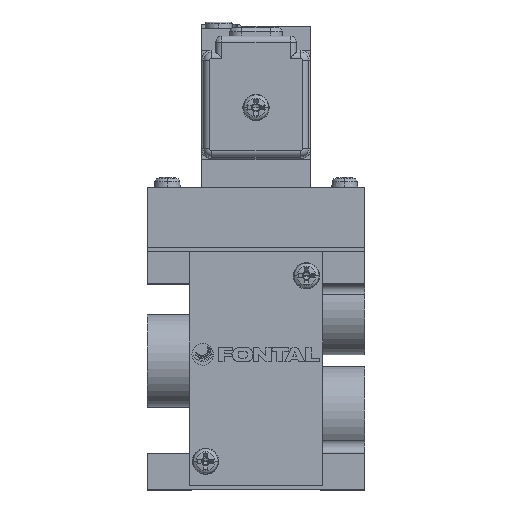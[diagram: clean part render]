
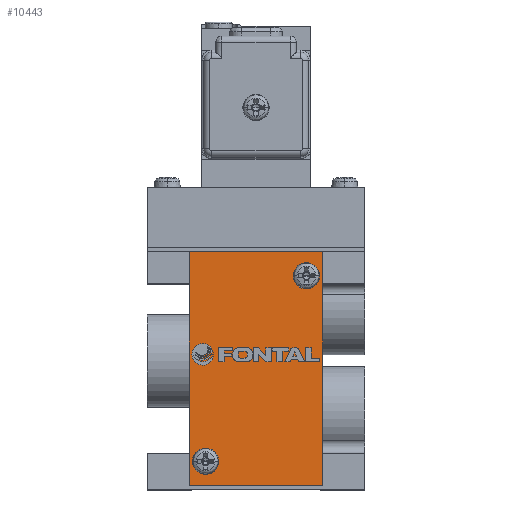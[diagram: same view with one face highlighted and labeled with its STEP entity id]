
A CAD part, top view. The second image highlights one B-rep face of the part: STEP entity #10443.
In plain terms, the highlighted planar face has unit normal (0, 0, 1).
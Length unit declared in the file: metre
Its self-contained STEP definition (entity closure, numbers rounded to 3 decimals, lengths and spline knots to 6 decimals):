
#30 = PLANE ( 'NONE',  #2409 ) ;
#70 = ORIENTED_EDGE ( 'NONE', *, *, #10783, .F. ) ;
#312 = LINE ( 'NONE', #5305, #6131 ) ;
#380 = CARTESIAN_POINT ( 'NONE',  ( 0.0125, 0.023, 0.0016 ) ) ;
#613 = AXIS2_PLACEMENT_3D ( 'NONE', #3004, #11134, #4196 ) ;
#669 = EDGE_CURVE ( 'NONE', #11041, #12540, #9180, .T. ) ;
#670 = DIRECTION ( 'NONE',  ( 0., 0., 1. ) ) ;
#1001 = VERTEX_POINT ( 'NONE', #4184 ) ;
#1219 = FACE_BOUND ( 'NONE', #7589, .T. ) ;
#1278 = VECTOR ( 'NONE', #7648, 1. ) ;
#1492 = ORIENTED_EDGE ( 'NONE', *, *, #669, .F. ) ;
#1531 = DIRECTION ( 'NONE',  ( 1., 0., 0. ) ) ;
#1737 = LINE ( 'NONE', #10417, #2100 ) ;
#1955 = CIRCLE ( 'NONE', #613, 0.002 ) ;
#2100 = VECTOR ( 'NONE', #3475, 1. ) ;
#2325 = ORIENTED_EDGE ( 'NONE', *, *, #11263, .F. ) ;
#2352 = CARTESIAN_POINT ( 'NONE',  ( 0.0165, -0.029, 0.0016 ) ) ;
#2409 = AXIS2_PLACEMENT_3D ( 'NONE', #2352, #12803, #5889 ) ;
#2622 = EDGE_CURVE ( 'NONE', #14294, #9284, #9322, .T. ) ;
#2711 = ORIENTED_EDGE ( 'NONE', *, *, #6319, .F. ) ;
#2784 = CARTESIAN_POINT ( 'NONE',  ( 0.0165, 0.029, 0.0016 ) ) ;
#2830 = ORIENTED_EDGE ( 'NONE', *, *, #8088, .F. ) ;
#2954 = DIRECTION ( 'NONE',  ( 0., 0., 1. ) ) ;
#3004 = CARTESIAN_POINT ( 'NONE',  ( 0.0125, 0.023, 0.0016 ) ) ;
#3212 = ORIENTED_EDGE ( 'NONE', *, *, #5862, .F. ) ;
#3241 = VERTEX_POINT ( 'NONE', #7312 ) ;
#3385 = CARTESIAN_POINT ( 'NONE',  ( -0.0165, 0.029, 0.0016 ) ) ;
#3475 = DIRECTION ( 'NONE',  ( 1., 0., 0. ) ) ;
#4184 = CARTESIAN_POINT ( 'NONE',  ( 0.0145, 0.023, 0.0016 ) ) ;
#4196 = DIRECTION ( 'NONE',  ( 1., 0., 0. ) ) ;
#4453 = AXIS2_PLACEMENT_3D ( 'NONE', #7635, #670, #8801 ) ;
#5305 = CARTESIAN_POINT ( 'NONE',  ( -0.0165, 0., 0.0016 ) ) ;
#5751 = CARTESIAN_POINT ( 'NONE',  ( 0., -0.029, 0.0016 ) ) ;
#5862 = EDGE_CURVE ( 'NONE', #3241, #1001, #1955, .T. ) ;
#5889 = DIRECTION ( 'NONE',  ( -1., 0., 0. ) ) ;
#6105 = VECTOR ( 'NONE', #11205, 1. ) ;
#6131 = VECTOR ( 'NONE', #7566, 1. ) ;
#6146 = CIRCLE ( 'NONE', #9653, 0.002 ) ;
#6319 = EDGE_CURVE ( 'NONE', #1001, #3241, #6146, .T. ) ;
#6906 = EDGE_CURVE ( 'NONE', #12540, #8916, #312, .T. ) ;
#7312 = CARTESIAN_POINT ( 'NONE',  ( 0.0105, 0.023, 0.0016 ) ) ;
#7435 = EDGE_LOOP ( 'NONE', ( #2711, #3212 ) ) ;
#7476 = CARTESIAN_POINT ( 'NONE',  ( -0.0105, -0.023, 0.0016 ) ) ;
#7566 = DIRECTION ( 'NONE',  ( 0., 1., 0. ) ) ;
#7589 = EDGE_LOOP ( 'NONE', ( #11307, #70 ) ) ;
#7635 = CARTESIAN_POINT ( 'NONE',  ( -0.0125, -0.023, 0.0016 ) ) ;
#7648 = DIRECTION ( 'NONE',  ( 0., -1., 0. ) ) ;
#8088 = EDGE_CURVE ( 'NONE', #10118, #11041, #10171, .T. ) ;
#8266 = AXIS2_PLACEMENT_3D ( 'NONE', #12239, #2954, #14451 ) ;
#8497 = DIRECTION ( 'NONE',  ( 0., 0., 1. ) ) ;
#8779 = EDGE_LOOP ( 'NONE', ( #2325, #14470, #1492, #2830 ) ) ;
#8801 = DIRECTION ( 'NONE',  ( 1., 0., 0. ) ) ;
#8916 = VERTEX_POINT ( 'NONE', #3385 ) ;
#9180 = LINE ( 'NONE', #5751, #6105 ) ;
#9284 = VERTEX_POINT ( 'NONE', #12797 ) ;
#9322 = CIRCLE ( 'NONE', #8266, 0.002 ) ;
#9653 = AXIS2_PLACEMENT_3D ( 'NONE', #380, #8497, #1531 ) ;
#10118 = VERTEX_POINT ( 'NONE', #2784 ) ;
#10171 = LINE ( 'NONE', #14567, #1278 ) ;
#10266 = CARTESIAN_POINT ( 'NONE',  ( -0.0165, -0.029, 0.0016 ) ) ;
#10417 = CARTESIAN_POINT ( 'NONE',  ( 0., 0.029, 0.0016 ) ) ;
#10443 = ADVANCED_FACE ( 'NONE', ( #13191, #1219, #13548 ), #30, .F. ) ;
#10783 = EDGE_CURVE ( 'NONE', #9284, #14294, #12641, .T. ) ;
#10964 = CARTESIAN_POINT ( 'NONE',  ( 0.0165, -0.029, 0.0016 ) ) ;
#11041 = VERTEX_POINT ( 'NONE', #10964 ) ;
#11134 = DIRECTION ( 'NONE',  ( 0., 0., 1. ) ) ;
#11205 = DIRECTION ( 'NONE',  ( -1., 0., 0. ) ) ;
#11263 = EDGE_CURVE ( 'NONE', #8916, #10118, #1737, .T. ) ;
#11307 = ORIENTED_EDGE ( 'NONE', *, *, #2622, .F. ) ;
#12239 = CARTESIAN_POINT ( 'NONE',  ( -0.0125, -0.023, 0.0016 ) ) ;
#12540 = VERTEX_POINT ( 'NONE', #10266 ) ;
#12641 = CIRCLE ( 'NONE', #4453, 0.002 ) ;
#12797 = CARTESIAN_POINT ( 'NONE',  ( -0.0145, -0.023, 0.0016 ) ) ;
#12803 = DIRECTION ( 'NONE',  ( 0., 0., -1. ) ) ;
#13191 = FACE_BOUND ( 'NONE', #7435, .T. ) ;
#13548 = FACE_OUTER_BOUND ( 'NONE', #8779, .T. ) ;
#14294 = VERTEX_POINT ( 'NONE', #7476 ) ;
#14451 = DIRECTION ( 'NONE',  ( 1., 0., 0. ) ) ;
#14470 = ORIENTED_EDGE ( 'NONE', *, *, #6906, .F. ) ;
#14567 = CARTESIAN_POINT ( 'NONE',  ( 0.0165, 0., 0.0016 ) ) ;
